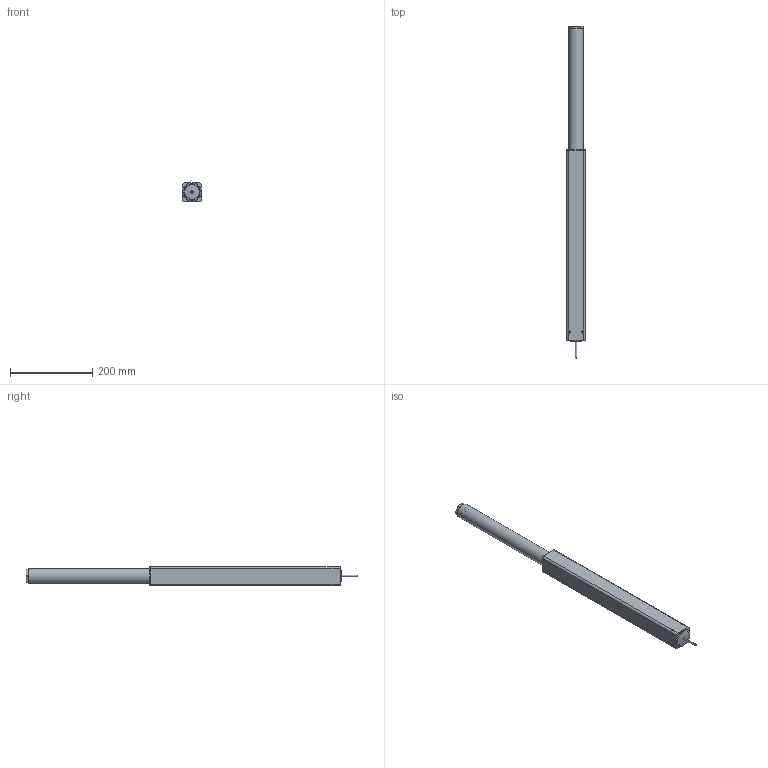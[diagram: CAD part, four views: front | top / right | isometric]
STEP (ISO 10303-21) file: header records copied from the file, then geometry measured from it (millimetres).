
FILE_DESCRIPTION(/* description */ ('Unknown'),/* implementation_level */ '2;1');
FILE_NAME(/* name */ '106.00693 Lineareinheit LG 1830_ausgefahren',/* time_stamp */ '2017-11-07T13:49:18+01:00',/* author */ ('Unknown'),/* organization */ ('Unknown'),/* preprocessor_version */ 'ST-DEVELOPER v16.7',/* originating_system */ 'DEX',/* authorisation */ $);
FILE_SCHEMA (('AUTOMOTIVE_DESIGN {1 0 10303 214 3 1 1}'));
Length unit declared in the file: millimetre
Products named in the file (9): 106.00693; 119.00233; 142.00245; 115.00008; 142.00235; 128.00015; 125.00272; 123.00133; 113.00002_70mm
Assembly tree (9 placements, depth 2):
  106.00693
    119.00233
    142.00245  x2
    115.00008
    142.00235
    128.00015
    125.00272
    123.00133
    113.00002_70mm
Bounding box: 45 x 808.5 x 45 mm (x, y, z)
Volume: 492994.8 mm3; surface area: 264225.6 mm2
Topology: 8 solids, 8 shells, 153 faces, 371 edges, 236 vertices
Faces by surface type: plane 56, cylinder 49, cone 22, torus 20, sphere 6
Full cylindrical faces by diameter (mm): 2.2 x1, 4 x7, 4.917 x4, 5 x1, 6.647 x1, 8.376 x1, 28.3 x1, 30 x1, 31.8 x3, 32 x1, 35 x2, 36 x4, 38.9 x1, 39 x1, 44 x1, 45 x1
Entity records: 7336 total; most frequent: CARTESIAN_POINT 3697, DIRECTION 611, ORIENTED_EDGE 490, AXIS2_PLACEMENT_3D 266, EDGE_CURVE 245, EDGE_LOOP 223, FACE_BOUND 223, VERTEX_POINT 186
